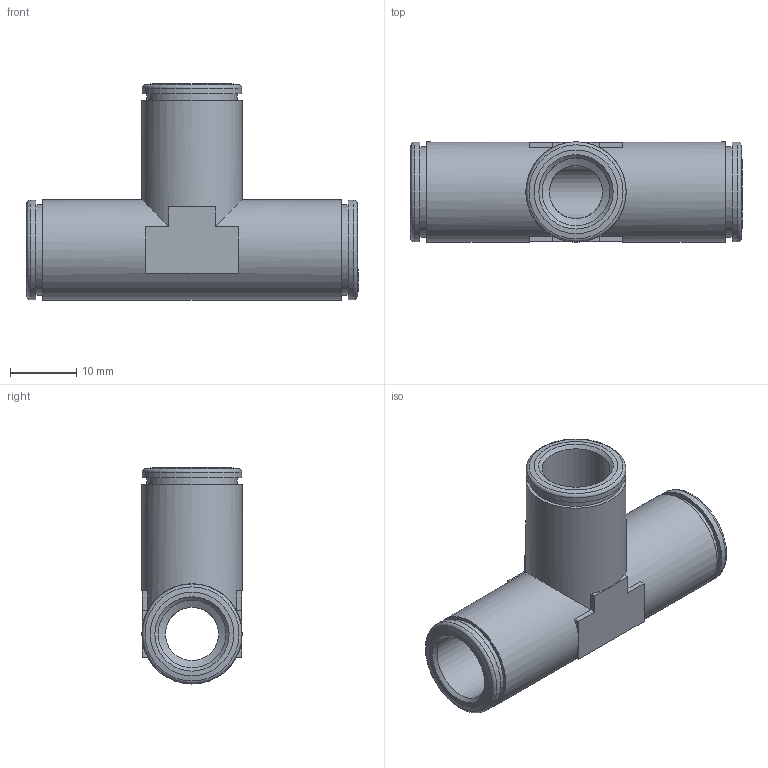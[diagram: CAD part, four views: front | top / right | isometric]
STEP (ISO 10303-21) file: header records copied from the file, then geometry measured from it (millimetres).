
FILE_DESCRIPTION(/* description */ (''),/* implementation_level */ '2;1');
FILE_NAME(/* name */ '200505-ES_STX_05_10_21.06.16',/* time_stamp */ '2016-06-21T12:28:08+02:00',/* author */ (''),/* organization */ (''),/* preprocessor_version */ 'ST-DEVELOPER v16.5',/* originating_system */ 'HiCAD 2016 2101.0 Build 254',/* authorisation */ '');
FILE_SCHEMA (('AUTOMOTIVE_DESIGN { 1 0 10303 214 1 1 1 1 }'));
Length unit declared in the file: millimetre
Products named in the file (5): Root; R200505-ES-N; DR10-N
Assembly tree (4 placements, depth 2):
  Root
    R200505-ES-N
    DR10-N
    DR10-N
    DR10-N
Bounding box: 50 x 15.1 x 32.55 mm (x, y, z)
Volume: 5989.2 mm3; surface area: 7836.5 mm2
Topology: 4 solids, 4 shells, 97 faces, 207 edges, 123 vertices
Faces by surface type: plane 45, cylinder 25, cone 24, torus 3
Full cylindrical faces by diameter (mm): 8 x2, 10.2 x6, 12.3 x3, 13 x3, 13.6 x3, 13.7 x3, 15 x3, 15.1 x2
Entity records: 3765 total; most frequent: DIRECTION 440, CARTESIAN_POINT 359, PRESENTATION_STYLE_ASSIGNMENT 288, COLOUR_RGB 285, DRAUGHTING_PRE_DEFINED_CURVE_FONT 284, CURVE_STYLE 284, OVER_RIDING_STYLED_ITEM 284, ORIENTED_EDGE 284
